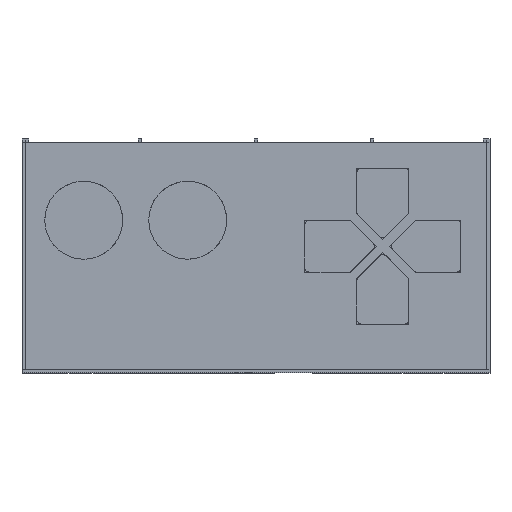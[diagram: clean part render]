
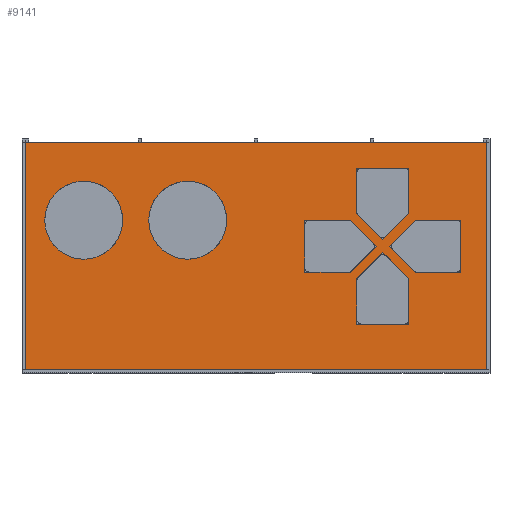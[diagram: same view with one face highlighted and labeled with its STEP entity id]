
A CAD part, top view. The second image highlights one B-rep face of the part: STEP entity #9141.
In plain terms, the highlighted planar face has unit normal (0, 0, 1).
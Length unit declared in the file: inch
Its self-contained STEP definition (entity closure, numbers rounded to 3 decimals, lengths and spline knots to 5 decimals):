
#83=FACE_BOUND('',#1472,.T.);
#84=FACE_BOUND('',#1473,.T.);
#85=FACE_BOUND('',#1474,.T.);
#86=FACE_BOUND('',#1475,.T.);
#87=FACE_BOUND('',#1476,.T.);
#88=FACE_BOUND('',#1477,.T.);
#509=PLANE('',#9716);
#969=FACE_OUTER_BOUND('',#1471,.T.);
#1471=EDGE_LOOP('',(#8587,#8588,#8589,#8590));
#1472=EDGE_LOOP('',(#8591));
#1473=EDGE_LOOP('',(#8592));
#1474=EDGE_LOOP('',(#8593,#8594,#8595,#8596,#8597));
#1475=EDGE_LOOP('',(#8598,#8599,#8600,#8601,#8602));
#1476=EDGE_LOOP('',(#8603,#8604,#8605,#8606,#8607));
#1477=EDGE_LOOP('',(#8608,#8609,#8610,#8611,#8612));
#2622=LINE('',#14487,#3812);
#2625=LINE('',#14492,#3815);
#2627=LINE('',#14496,#3817);
#2629=LINE('',#14501,#3819);
#2632=LINE('',#14506,#3822);
#2634=LINE('',#14510,#3824);
#2636=LINE('',#14515,#3826);
#2639=LINE('',#14520,#3829);
#2641=LINE('',#14524,#3831);
#2643=LINE('',#14529,#3833);
#2646=LINE('',#14534,#3836);
#2648=LINE('',#14538,#3838);
#2649=LINE('',#14541,#3839);
#2651=LINE('',#14544,#3841);
#2652=LINE('',#14547,#3842);
#2654=LINE('',#14550,#3844);
#2655=LINE('',#14553,#3845);
#2657=LINE('',#14556,#3847);
#2658=LINE('',#14559,#3848);
#2660=LINE('',#14562,#3850);
#2665=LINE('',#14578,#3855);
#2668=LINE('',#14584,#3858);
#2671=LINE('',#14590,#3861);
#2674=LINE('',#14594,#3864);
#3812=VECTOR('',#11895,0.3937);
#3815=VECTOR('',#11900,0.3937);
#3817=VECTOR('',#11904,0.3937);
#3819=VECTOR('',#11908,0.3937);
#3822=VECTOR('',#11913,0.3937);
#3824=VECTOR('',#11917,0.3937);
#3826=VECTOR('',#11921,0.3937);
#3829=VECTOR('',#11926,0.3937);
#3831=VECTOR('',#11930,0.3937);
#3833=VECTOR('',#11934,0.3937);
#3836=VECTOR('',#11939,0.3937);
#3838=VECTOR('',#11943,0.3937);
#3839=VECTOR('',#11946,0.3937);
#3841=VECTOR('',#11950,0.3937);
#3842=VECTOR('',#11953,0.3937);
#3844=VECTOR('',#11957,0.3937);
#3845=VECTOR('',#11960,0.3937);
#3847=VECTOR('',#11964,0.3937);
#3848=VECTOR('',#11967,0.3937);
#3850=VECTOR('',#11971,0.3937);
#3855=VECTOR('',#11986,0.3937);
#3858=VECTOR('',#11991,0.3937);
#3861=VECTOR('',#11996,0.3937);
#3864=VECTOR('',#12001,0.3937);
#3951=CIRCLE('',#9709,6.);
#3952=CIRCLE('',#9711,6.);
#4775=VERTEX_POINT('',#14484);
#4776=VERTEX_POINT('',#14486);
#4777=VERTEX_POINT('',#14490);
#4778=VERTEX_POINT('',#14494);
#4779=VERTEX_POINT('',#14498);
#4780=VERTEX_POINT('',#14500);
#4781=VERTEX_POINT('',#14504);
#4782=VERTEX_POINT('',#14508);
#4783=VERTEX_POINT('',#14512);
#4784=VERTEX_POINT('',#14514);
#4785=VERTEX_POINT('',#14518);
#4786=VERTEX_POINT('',#14522);
#4787=VERTEX_POINT('',#14526);
#4788=VERTEX_POINT('',#14528);
#4789=VERTEX_POINT('',#14532);
#4790=VERTEX_POINT('',#14536);
#4791=VERTEX_POINT('',#14540);
#4792=VERTEX_POINT('',#14546);
#4793=VERTEX_POINT('',#14552);
#4794=VERTEX_POINT('',#14558);
#4795=VERTEX_POINT('',#14564);
#4796=VERTEX_POINT('',#14568);
#4799=VERTEX_POINT('',#14575);
#4800=VERTEX_POINT('',#14577);
#4802=VERTEX_POINT('',#14583);
#4804=VERTEX_POINT('',#14589);
#6028=EDGE_CURVE('',#4776,#4775,#2622,.T.);
#6031=EDGE_CURVE('',#4775,#4777,#2625,.T.);
#6033=EDGE_CURVE('',#4777,#4778,#2627,.T.);
#6035=EDGE_CURVE('',#4780,#4779,#2629,.T.);
#6038=EDGE_CURVE('',#4779,#4781,#2632,.T.);
#6040=EDGE_CURVE('',#4781,#4782,#2634,.T.);
#6042=EDGE_CURVE('',#4784,#4783,#2636,.T.);
#6045=EDGE_CURVE('',#4783,#4785,#2639,.T.);
#6047=EDGE_CURVE('',#4785,#4786,#2641,.T.);
#6049=EDGE_CURVE('',#4788,#4787,#2643,.T.);
#6052=EDGE_CURVE('',#4787,#4789,#2646,.T.);
#6054=EDGE_CURVE('',#4789,#4790,#2648,.T.);
#6055=EDGE_CURVE('',#4791,#4788,#2649,.T.);
#6057=EDGE_CURVE('',#4790,#4791,#2651,.T.);
#6058=EDGE_CURVE('',#4792,#4780,#2652,.T.);
#6060=EDGE_CURVE('',#4782,#4792,#2654,.T.);
#6061=EDGE_CURVE('',#4793,#4784,#2655,.T.);
#6063=EDGE_CURVE('',#4786,#4793,#2657,.T.);
#6064=EDGE_CURVE('',#4794,#4776,#2658,.T.);
#6066=EDGE_CURVE('',#4778,#4794,#2660,.T.);
#6067=EDGE_CURVE('',#4795,#4795,#3951,.T.);
#6069=EDGE_CURVE('',#4796,#4796,#3952,.T.);
#6073=EDGE_CURVE('',#4800,#4799,#2665,.T.);
#6076=EDGE_CURVE('',#4802,#4800,#2668,.T.);
#6079=EDGE_CURVE('',#4804,#4802,#2671,.T.);
#6082=EDGE_CURVE('',#4799,#4804,#2674,.T.);
#8587=ORIENTED_EDGE('',*,*,#6082,.T.);
#8588=ORIENTED_EDGE('',*,*,#6079,.T.);
#8589=ORIENTED_EDGE('',*,*,#6076,.T.);
#8590=ORIENTED_EDGE('',*,*,#6073,.T.);
#8591=ORIENTED_EDGE('',*,*,#6069,.T.);
#8592=ORIENTED_EDGE('',*,*,#6067,.T.);
#8593=ORIENTED_EDGE('',*,*,#6028,.T.);
#8594=ORIENTED_EDGE('',*,*,#6031,.T.);
#8595=ORIENTED_EDGE('',*,*,#6033,.T.);
#8596=ORIENTED_EDGE('',*,*,#6066,.T.);
#8597=ORIENTED_EDGE('',*,*,#6064,.T.);
#8598=ORIENTED_EDGE('',*,*,#6042,.T.);
#8599=ORIENTED_EDGE('',*,*,#6045,.T.);
#8600=ORIENTED_EDGE('',*,*,#6047,.T.);
#8601=ORIENTED_EDGE('',*,*,#6063,.T.);
#8602=ORIENTED_EDGE('',*,*,#6061,.T.);
#8603=ORIENTED_EDGE('',*,*,#6035,.T.);
#8604=ORIENTED_EDGE('',*,*,#6038,.T.);
#8605=ORIENTED_EDGE('',*,*,#6040,.T.);
#8606=ORIENTED_EDGE('',*,*,#6060,.T.);
#8607=ORIENTED_EDGE('',*,*,#6058,.T.);
#8608=ORIENTED_EDGE('',*,*,#6049,.T.);
#8609=ORIENTED_EDGE('',*,*,#6052,.T.);
#8610=ORIENTED_EDGE('',*,*,#6054,.T.);
#8611=ORIENTED_EDGE('',*,*,#6057,.T.);
#8612=ORIENTED_EDGE('',*,*,#6055,.T.);
#9141=ADVANCED_FACE('',(#969,#83,#84,#85,#86,#87,#88),#509,.T.);
#9709=AXIS2_PLACEMENT_3D('',#14565,#11974,#11975);
#9711=AXIS2_PLACEMENT_3D('',#14569,#11979,#11980);
#9716=AXIS2_PLACEMENT_3D('',#14595,#12002,#12003);
#11895=DIRECTION('',(-0.707,0.707,0.));
#11900=DIRECTION('',(0.,1.,0.));
#11904=DIRECTION('',(1.,0.,0.));
#11908=DIRECTION('',(0.707,0.707,0.));
#11913=DIRECTION('',(0.707,-0.707,0.));
#11917=DIRECTION('',(0.,-1.,0.));
#11921=DIRECTION('',(0.707,0.707,0.));
#11926=DIRECTION('',(1.,0.,0.));
#11930=DIRECTION('',(0.,-1.,0.));
#11934=DIRECTION('',(0.707,-0.707,0.));
#11939=DIRECTION('',(-0.707,-0.707,0.));
#11943=DIRECTION('',(-1.,0.,0.));
#11946=DIRECTION('',(1.,0.,0.));
#11950=DIRECTION('',(0.,1.,0.));
#11953=DIRECTION('',(0.,1.,0.));
#11957=DIRECTION('',(-1.,0.,0.));
#11960=DIRECTION('',(-0.707,0.707,0.));
#11964=DIRECTION('',(-1.,0.,0.));
#11967=DIRECTION('',(-0.707,-0.707,0.));
#11971=DIRECTION('',(0.,-1.,0.));
#11974=DIRECTION('center_axis',(0.,0.,-1.));
#11975=DIRECTION('ref_axis',(-1.,0.,0.));
#11979=DIRECTION('center_axis',(0.,0.,-1.));
#11980=DIRECTION('ref_axis',(-1.,0.,0.));
#11986=DIRECTION('',(1.,0.,0.));
#11991=DIRECTION('',(0.,-1.,0.));
#11996=DIRECTION('',(-1.,0.,0.));
#12001=DIRECTION('',(0.,1.,0.));
#12002=DIRECTION('center_axis',(0.,0.,1.));
#12003=DIRECTION('ref_axis',(-1.,0.,0.));
#14484=CARTESIAN_POINT('',(51.5,24.5,5.25));
#14486=CARTESIAN_POINT('',(55.5,20.5,5.25));
#14487=CARTESIAN_POINT('',(55.5,20.5,5.25));
#14490=CARTESIAN_POINT('',(51.5,31.5,5.25));
#14492=CARTESIAN_POINT('',(51.5,24.5,5.25));
#14494=CARTESIAN_POINT('',(59.5,31.5,5.25));
#14496=CARTESIAN_POINT('',(51.5,31.5,5.25));
#14498=CARTESIAN_POINT('',(55.52344,18.50014,5.25));
#14500=CARTESIAN_POINT('',(51.52344,14.50014,5.25));
#14501=CARTESIAN_POINT('',(55.52344,18.50014,5.25));
#14504=CARTESIAN_POINT('',(59.52344,14.50014,5.25));
#14506=CARTESIAN_POINT('',(55.52344,18.50014,5.25));
#14508=CARTESIAN_POINT('',(59.52344,7.50014,5.25));
#14510=CARTESIAN_POINT('',(59.52344,14.50014,5.25));
#14512=CARTESIAN_POINT('',(60.51165,23.51179,5.25));
#14514=CARTESIAN_POINT('',(56.51165,19.51179,5.25));
#14515=CARTESIAN_POINT('',(56.51165,19.51179,5.25));
#14518=CARTESIAN_POINT('',(67.51165,23.51179,5.25));
#14520=CARTESIAN_POINT('',(60.51165,23.51179,5.25));
#14522=CARTESIAN_POINT('',(67.51165,15.51179,5.25));
#14524=CARTESIAN_POINT('',(67.51165,23.51179,5.25));
#14526=CARTESIAN_POINT('',(54.51179,19.48835,5.25));
#14528=CARTESIAN_POINT('',(50.51179,23.48835,5.25));
#14529=CARTESIAN_POINT('',(54.51179,19.48835,5.25));
#14532=CARTESIAN_POINT('',(50.51179,15.48835,5.25));
#14534=CARTESIAN_POINT('',(54.51179,19.48835,5.25));
#14536=CARTESIAN_POINT('',(43.51179,15.48835,5.25));
#14538=CARTESIAN_POINT('',(50.51179,15.48835,5.25));
#14540=CARTESIAN_POINT('',(43.51179,23.48835,5.25));
#14541=CARTESIAN_POINT('',(43.51179,23.48835,5.25));
#14544=CARTESIAN_POINT('',(43.51179,15.48835,5.25));
#14546=CARTESIAN_POINT('',(51.52344,7.50014,5.25));
#14547=CARTESIAN_POINT('',(51.52344,7.50014,5.25));
#14550=CARTESIAN_POINT('',(59.52344,7.50014,5.25));
#14552=CARTESIAN_POINT('',(60.51165,15.51179,5.25));
#14553=CARTESIAN_POINT('',(56.51165,19.51179,5.25));
#14556=CARTESIAN_POINT('',(67.51165,15.51179,5.25));
#14558=CARTESIAN_POINT('',(59.5,24.5,5.25));
#14559=CARTESIAN_POINT('',(55.5,20.5,5.25));
#14562=CARTESIAN_POINT('',(59.5,31.5,5.25));
#14564=CARTESIAN_POINT('',(31.5,23.5,5.25));
#14565=CARTESIAN_POINT('Origin',(25.5,23.5,5.25));
#14568=CARTESIAN_POINT('',(15.5,23.5,5.25));
#14569=CARTESIAN_POINT('Origin',(9.5,23.5,5.25));
#14575=CARTESIAN_POINT('',(71.5,0.5,5.25));
#14577=CARTESIAN_POINT('',(0.5,0.5,5.25));
#14578=CARTESIAN_POINT('',(0.5,0.5,5.25));
#14583=CARTESIAN_POINT('',(0.5,35.5,5.25));
#14584=CARTESIAN_POINT('',(0.5,35.5,5.25));
#14589=CARTESIAN_POINT('',(71.5,35.5,5.25));
#14590=CARTESIAN_POINT('',(71.5,35.5,5.25));
#14594=CARTESIAN_POINT('',(71.5,0.5,5.25));
#14595=CARTESIAN_POINT('Origin',(36.,18.,5.25));
